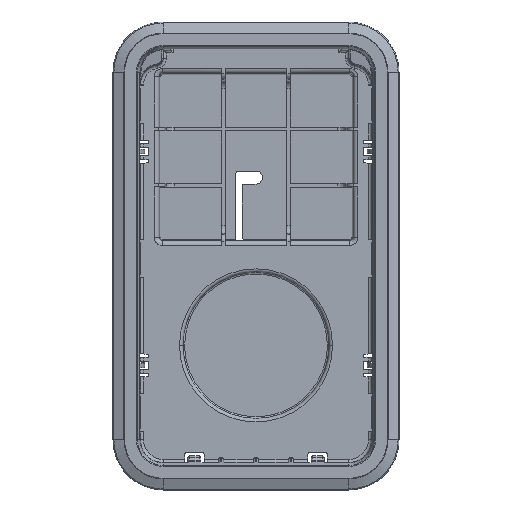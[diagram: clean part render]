
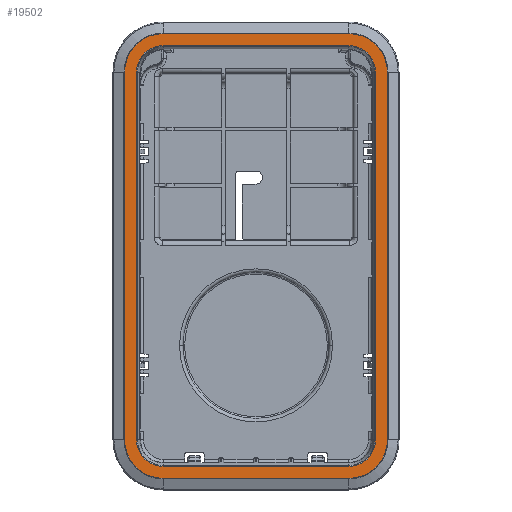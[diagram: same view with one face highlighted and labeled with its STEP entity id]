
A CAD part, top view. The second image highlights one B-rep face of the part: STEP entity #19502.
In plain terms, the highlighted planar face has unit normal (0, 0, 1).
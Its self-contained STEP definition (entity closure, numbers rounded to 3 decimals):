
#5830=CARTESIAN_POINT('',(-28.65,57.45,18.8));
#5831=DIRECTION('',(0.,0.,1.));
#5832=DIRECTION('',(0.,1.,0.));
#5833=AXIS2_PLACEMENT_3D('',#5830,#5831,#5832);
#5835=DIRECTION('',(-1.,0.,0.));
#5836=VECTOR('',#5835,57.3);
#5837=CARTESIAN_POINT('',(28.65,69.347,18.8));
#5838=LINE('',#5837,#5836);
#5839=CARTESIAN_POINT('',(28.65,57.45,18.8));
#5840=DIRECTION('',(0.,0.,1.));
#5841=DIRECTION('',(1.,0.,0.));
#5842=AXIS2_PLACEMENT_3D('',#5839,#5840,#5841);
#5844=DIRECTION('',(0.,1.,0.));
#5845=VECTOR('',#5844,113.4);
#5846=CARTESIAN_POINT('',(40.547,-55.95,18.8));
#5847=LINE('',#5846,#5845);
#5848=CARTESIAN_POINT('',(28.65,-55.95,18.8));
#5849=DIRECTION('',(0.,0.,1.));
#5850=DIRECTION('',(0.,-1.,0.));
#5851=AXIS2_PLACEMENT_3D('',#5848,#5849,#5850);
#5853=DIRECTION('',(1.,0.,0.));
#5854=VECTOR('',#5853,57.3);
#5855=CARTESIAN_POINT('',(-28.65,-67.847,18.8));
#5856=LINE('',#5855,#5854);
#5857=CARTESIAN_POINT('',(-28.65,-55.95,18.8));
#5858=DIRECTION('',(0.,0.,1.));
#5859=DIRECTION('',(-1.,0.,0.));
#5860=AXIS2_PLACEMENT_3D('',#5857,#5858,#5859);
#5862=DIRECTION('',(0.,-1.,0.));
#5863=VECTOR('',#5862,113.4);
#5864=CARTESIAN_POINT('',(-40.547,57.45,18.8));
#5865=LINE('',#5864,#5863);
#5866=DIRECTION('',(0.,1.,0.));
#5867=VECTOR('',#5866,113.4);
#5868=CARTESIAN_POINT('',(-36.844,-55.95,18.8));
#5869=LINE('',#5868,#5867);
#5870=CARTESIAN_POINT('',(-28.65,-55.95,18.8));
#5871=DIRECTION('',(0.,0.,-1.));
#5872=DIRECTION('',(0.,-1.,0.));
#5873=AXIS2_PLACEMENT_3D('',#5870,#5871,#5872);
#5875=DIRECTION('',(-1.,0.,0.));
#5876=VECTOR('',#5875,57.3);
#5877=CARTESIAN_POINT('',(28.65,-64.144,18.8));
#5878=LINE('',#5877,#5876);
#5879=CARTESIAN_POINT('',(28.65,-55.95,18.8));
#5880=DIRECTION('',(0.,0.,-1.));
#5881=DIRECTION('',(1.,0.,0.));
#5882=AXIS2_PLACEMENT_3D('',#5879,#5880,#5881);
#5884=DIRECTION('',(0.,-1.,0.));
#5885=VECTOR('',#5884,113.4);
#5886=CARTESIAN_POINT('',(36.844,57.45,18.8));
#5887=LINE('',#5886,#5885);
#5888=CARTESIAN_POINT('',(28.65,57.45,18.8));
#5889=DIRECTION('',(0.,0.,-1.));
#5890=DIRECTION('',(0.,1.,0.));
#5891=AXIS2_PLACEMENT_3D('',#5888,#5889,#5890);
#5893=DIRECTION('',(1.,0.,0.));
#5894=VECTOR('',#5893,57.3);
#5895=CARTESIAN_POINT('',(-28.65,65.644,18.8));
#5896=LINE('',#5895,#5894);
#5897=CARTESIAN_POINT('',(-28.65,57.45,18.8));
#5898=DIRECTION('',(0.,0.,-1.));
#5899=DIRECTION('',(-1.,0.,0.));
#5900=AXIS2_PLACEMENT_3D('',#5897,#5898,#5899);
#9762=CARTESIAN_POINT('',(-28.65,69.347,18.8));
#9763=CARTESIAN_POINT('',(-40.547,57.45,18.8));
#9764=VERTEX_POINT('',#9762);
#9765=VERTEX_POINT('',#9763);
#9770=CARTESIAN_POINT('',(-40.547,-55.95,18.8));
#9771=VERTEX_POINT('',#9770);
#9774=CARTESIAN_POINT('',(-28.65,-67.847,18.8));
#9775=VERTEX_POINT('',#9774);
#9778=CARTESIAN_POINT('',(28.65,-67.847,18.8));
#9779=VERTEX_POINT('',#9778);
#9782=CARTESIAN_POINT('',(40.547,-55.95,18.8));
#9783=VERTEX_POINT('',#9782);
#9786=CARTESIAN_POINT('',(40.547,57.45,18.8));
#9787=VERTEX_POINT('',#9786);
#9790=CARTESIAN_POINT('',(28.65,69.347,18.8));
#9791=VERTEX_POINT('',#9790);
#11158=CARTESIAN_POINT('',(-36.844,-55.95,18.8));
#11159=CARTESIAN_POINT('',(-36.844,57.45,18.8));
#11160=VERTEX_POINT('',#11158);
#11161=VERTEX_POINT('',#11159);
#11166=CARTESIAN_POINT('',(-28.65,65.644,18.8));
#11167=VERTEX_POINT('',#11166);
#11170=CARTESIAN_POINT('',(28.65,65.644,18.8));
#11171=VERTEX_POINT('',#11170);
#11174=CARTESIAN_POINT('',(36.844,57.45,18.8));
#11175=VERTEX_POINT('',#11174);
#11178=CARTESIAN_POINT('',(36.844,-55.95,18.8));
#11179=VERTEX_POINT('',#11178);
#11182=CARTESIAN_POINT('',(28.65,-64.144,18.8));
#11183=VERTEX_POINT('',#11182);
#11186=CARTESIAN_POINT('',(-28.65,-64.144,18.8));
#11187=VERTEX_POINT('',#11186);
#19462=CARTESIAN_POINT('',(0.,0.,18.8));
#19463=DIRECTION('',(0.,0.,1.));
#19464=DIRECTION('',(1.,0.,0.));
#19465=AXIS2_PLACEMENT_3D('',#19462,#19463,#19464);
#19466=PLANE('',#19465);
#19468=ORIENTED_EDGE('',*,*,#19467,.F.);
#19470=ORIENTED_EDGE('',*,*,#19469,.F.);
#19472=ORIENTED_EDGE('',*,*,#19471,.F.);
#19474=ORIENTED_EDGE('',*,*,#19473,.F.);
#19476=ORIENTED_EDGE('',*,*,#19475,.F.);
#19478=ORIENTED_EDGE('',*,*,#19477,.F.);
#19480=ORIENTED_EDGE('',*,*,#19479,.F.);
#19481=ORIENTED_EDGE('',*,*,#19452,.F.);
#19482=EDGE_LOOP('',(#19468,#19470,#19472,#19474,#19476,#19478,#19480,#19481));
#19483=FACE_OUTER_BOUND('',#19482,.F.);
#19485=ORIENTED_EDGE('',*,*,#19484,.F.);
#19487=ORIENTED_EDGE('',*,*,#19486,.F.);
#19489=ORIENTED_EDGE('',*,*,#19488,.F.);
#19491=ORIENTED_EDGE('',*,*,#19490,.F.);
#19493=ORIENTED_EDGE('',*,*,#19492,.F.);
#19495=ORIENTED_EDGE('',*,*,#19494,.F.);
#19497=ORIENTED_EDGE('',*,*,#19496,.F.);
#19499=ORIENTED_EDGE('',*,*,#19498,.F.);
#19500=EDGE_LOOP('',(#19485,#19487,#19489,#19491,#19493,#19495,#19497,#19499));
#19501=FACE_BOUND('',#19500,.F.);
#19502=ADVANCED_FACE('',(#19483,#19501),#19466,.T.);
#5834=CIRCLE('',#5833,11.897);
#5843=CIRCLE('',#5842,11.897);
#5852=CIRCLE('',#5851,11.897);
#5861=CIRCLE('',#5860,11.897);
#5874=CIRCLE('',#5873,8.194);
#5883=CIRCLE('',#5882,8.194);
#5892=CIRCLE('',#5891,8.194);
#5901=CIRCLE('',#5900,8.194);
#19452=EDGE_CURVE('',#9765,#9771,#5865,.T.);
#19467=EDGE_CURVE('',#9764,#9765,#5834,.T.);
#19469=EDGE_CURVE('',#9791,#9764,#5838,.T.);
#19471=EDGE_CURVE('',#9787,#9791,#5843,.T.);
#19473=EDGE_CURVE('',#9783,#9787,#5847,.T.);
#19475=EDGE_CURVE('',#9779,#9783,#5852,.T.);
#19477=EDGE_CURVE('',#9775,#9779,#5856,.T.);
#19479=EDGE_CURVE('',#9771,#9775,#5861,.T.);
#19484=EDGE_CURVE('',#11160,#11161,#5869,.T.);
#19486=EDGE_CURVE('',#11187,#11160,#5874,.T.);
#19488=EDGE_CURVE('',#11183,#11187,#5878,.T.);
#19490=EDGE_CURVE('',#11179,#11183,#5883,.T.);
#19492=EDGE_CURVE('',#11175,#11179,#5887,.T.);
#19494=EDGE_CURVE('',#11171,#11175,#5892,.T.);
#19496=EDGE_CURVE('',#11167,#11171,#5896,.T.);
#19498=EDGE_CURVE('',#11161,#11167,#5901,.T.);
